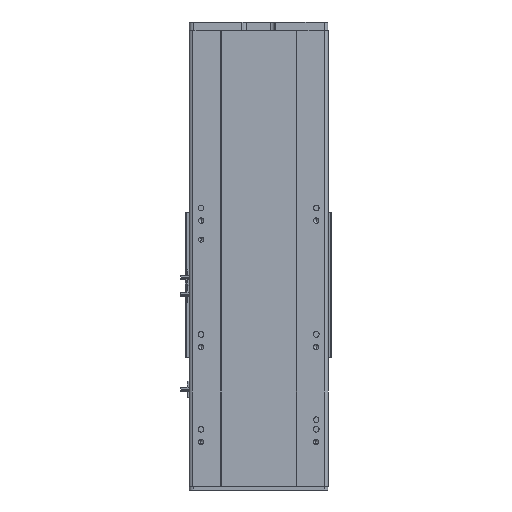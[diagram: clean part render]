
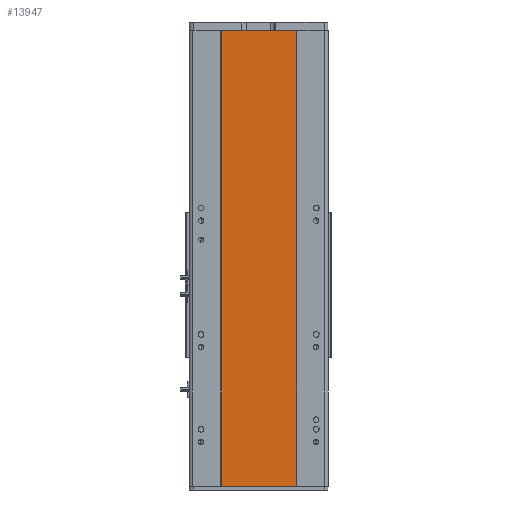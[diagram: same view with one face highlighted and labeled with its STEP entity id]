
A CAD part, front view. The second image highlights one B-rep face of the part: STEP entity #13947.
In plain terms, the highlighted planar face has unit normal (0, -1, 0).
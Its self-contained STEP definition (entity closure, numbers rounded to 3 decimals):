
#297 = LINE ( 'NONE', #22064, #28802 ) ;
#559 = ORIENTED_EDGE ( 'NONE', *, *, #27447, .T. ) ;
#661 = LINE ( 'NONE', #3052, #19224 ) ;
#846 = VECTOR ( 'NONE', #8159, 1000. ) ;
#1701 = CARTESIAN_POINT ( 'NONE',  ( -59., 1., 360.5 ) ) ;
#3052 = CARTESIAN_POINT ( 'NONE',  ( -59., 1., -360.5 ) ) ;
#4093 = EDGE_CURVE ( 'NONE', #16067, #7391, #23242, .T. ) ;
#5433 = CARTESIAN_POINT ( 'NONE',  ( 59., 1., 360.5 ) ) ;
#6408 = CARTESIAN_POINT ( 'NONE',  ( -59., 1., 360.5 ) ) ;
#6439 = EDGE_CURVE ( 'NONE', #28559, #16067, #297, .T. ) ;
#6468 = VERTEX_POINT ( 'NONE', #33816 ) ;
#7391 = VERTEX_POINT ( 'NONE', #9863 ) ;
#7976 = LINE ( 'NONE', #6408, #34395 ) ;
#8159 = DIRECTION ( 'NONE',  ( 0., 0., -1. ) ) ;
#8198 = AXIS2_PLACEMENT_3D ( 'NONE', #16412, #10482, #29964 ) ;
#9863 = CARTESIAN_POINT ( 'NONE',  ( 59., 1., -360.5 ) ) ;
#10482 = DIRECTION ( 'NONE',  ( 0., 1., 0. ) ) ;
#12814 = EDGE_CURVE ( 'NONE', #28559, #6468, #7976, .T. ) ;
#13947 = ADVANCED_FACE ( 'NONE', ( #28702 ), #35647, .F. ) ;
#14864 = ORIENTED_EDGE ( 'NONE', *, *, #4093, .F. ) ;
#16067 = VERTEX_POINT ( 'NONE', #25772 ) ;
#16412 = CARTESIAN_POINT ( 'NONE',  ( -59., 1., 360.5 ) ) ;
#19224 = VECTOR ( 'NONE', #28612, 1000. ) ;
#20011 = EDGE_LOOP ( 'NONE', ( #559, #14864, #29614, #30182 ) ) ;
#22064 = CARTESIAN_POINT ( 'NONE',  ( -59., 1., 360.5 ) ) ;
#23242 = LINE ( 'NONE', #5433, #846 ) ;
#25772 = CARTESIAN_POINT ( 'NONE',  ( 59., 1., 360.5 ) ) ;
#27447 = EDGE_CURVE ( 'NONE', #6468, #7391, #661, .T. ) ;
#28559 = VERTEX_POINT ( 'NONE', #1701 ) ;
#28612 = DIRECTION ( 'NONE',  ( 1., 0., 0. ) ) ;
#28702 = FACE_OUTER_BOUND ( 'NONE', #20011, .T. ) ;
#28802 = VECTOR ( 'NONE', #30324, 1000. ) ;
#29614 = ORIENTED_EDGE ( 'NONE', *, *, #6439, .F. ) ;
#29964 = DIRECTION ( 'NONE',  ( -1., 0., 0. ) ) ;
#30182 = ORIENTED_EDGE ( 'NONE', *, *, #12814, .T. ) ;
#30324 = DIRECTION ( 'NONE',  ( 1., 0., 0. ) ) ;
#33816 = CARTESIAN_POINT ( 'NONE',  ( -59., 1., -360.5 ) ) ;
#34395 = VECTOR ( 'NONE', #35085, 1000. ) ;
#35085 = DIRECTION ( 'NONE',  ( 0., 0., -1. ) ) ;
#35647 = PLANE ( 'NONE',  #8198 ) ;
